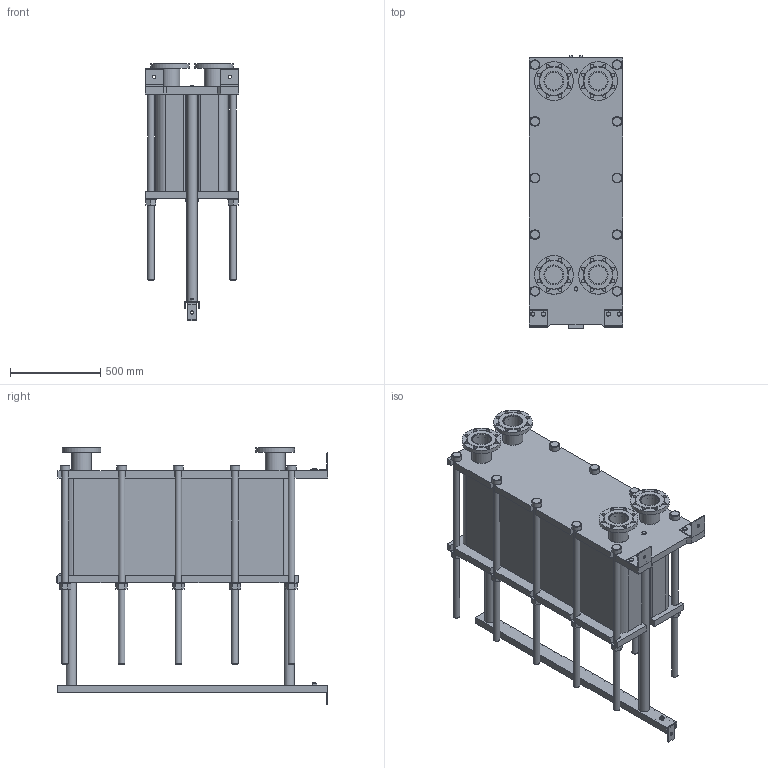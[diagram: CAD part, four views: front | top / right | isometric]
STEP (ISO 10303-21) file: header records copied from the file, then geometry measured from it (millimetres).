
FILE_DESCRIPTION(/* description */ (''),/* implementation_level */ '2;1');
FILE_NAME(/* name */ 'C:\Users\zhuro\Desktop\ENCO\TO\ЭН-04\ЭН-0,5-04-157-1.stp',/* time_stamp */ '2022-06-06T10:59:19+03:00',/* author */ ('zhuro'),/* organization */ (''),/* preprocessor_version */ 'ST-DEVELOPER v18.1',/* originating_system */ 'Autodesk Inventor 2022',/* authorisation */ '');
FILE_SCHEMA (('AUTOMOTIVE_DESIGN { 1 0 10303 214 3 1 1 }'));
Length unit declared in the file: millimetre
Products named in the file (1): ЭН-0,5-04-157-1
Bounding box: 520 x 1510 x 1428.5 mm (x, y, z)
Volume: 344967123.9 mm3; surface area: 9608697.3 mm2
Topology: 45 solids, 45 shells, 668 faces, 1611 edges, 1048 vertices
Faces by surface type: plane 457, cylinder 166, cone 39, torus 6
Full cylindrical faces by diameter (mm): 8 x4, 10 x2, 16 x8, 18 x35, 36 x25, 40 x2, 42 x1, 45 x4, 54 x10, 57 x2, 60 x10, 68 x2, 100 x4, 110 x8, 215 x4
Entity records: 23607 total; most frequent: CARTESIAN_POINT 7348, DIRECTION 3371, ORIENTED_EDGE 3142, EDGE_CURVE 1571, AXIS2_PLACEMENT_3D 1199, VERTEX_POINT 1044, LINE 973, VECTOR 973
